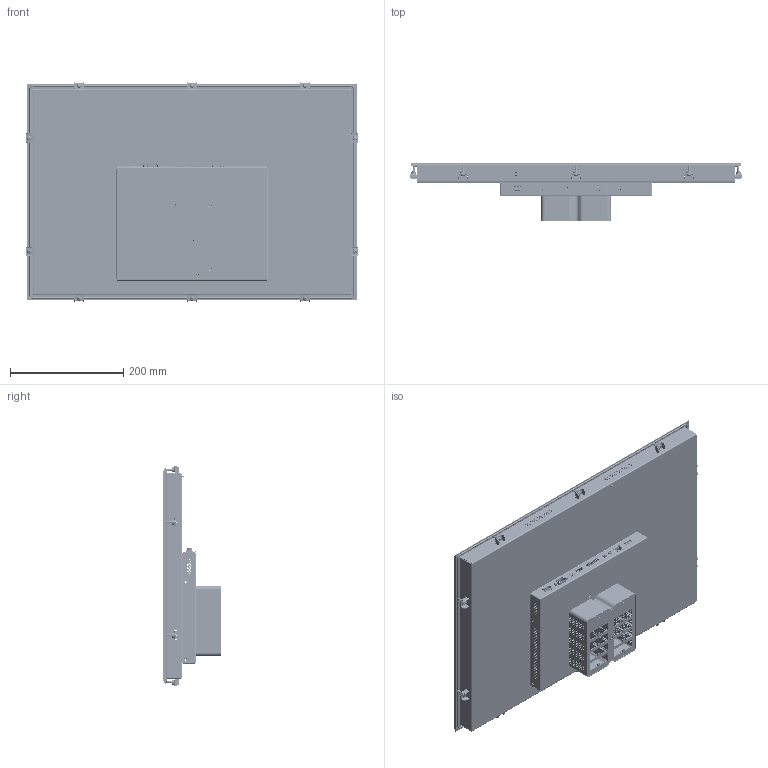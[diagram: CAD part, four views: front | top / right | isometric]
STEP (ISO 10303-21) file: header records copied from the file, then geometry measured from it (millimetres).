
FILE_DESCRIPTION (( 'STEP AP214' ), '1' );
FILE_NAME ('ﾏﾋﾊ24-01 ﾌ瑕褪.STEP', '2025-05-24T22:36:39', ( '' ), ( '' ), 'SwSTEP 2.0', 'SolidWorks 2021', '' );
FILE_SCHEMA (( 'AUTOMOTIVE_DESIGN' ));
Length unit declared in the file: millimetre
Products named in the file (1): ﾏﾋﾊ24-01 ﾌ瑕褪
Bounding box: 587.04 x 102.3 x 388.14 mm (x, y, z)
Surface area: 1037530.1 mm2 (no closed solid volume)
Topology: 0 solids, 210 shells, 2332 faces, 13971 edges, 11722 vertices
Faces by surface type: cylinder 1272, plane 935, cone 62, torus 42, bspline 21
Entity records: 170457 total; most frequent: CARTESIAN_POINT 41758, DIRECTION 19859, ORIENTED_EDGE 18529, EDGE_CURVE 13991, VERTEX_POINT 11723, LINE 6929, VECTOR 6929, AXIS2_PLACEMENT_3D 6465
